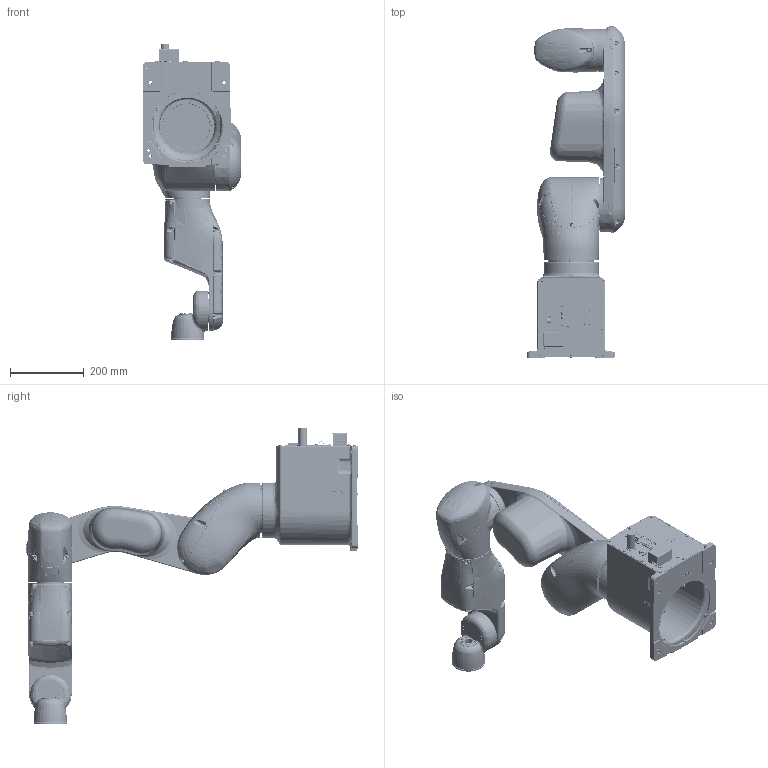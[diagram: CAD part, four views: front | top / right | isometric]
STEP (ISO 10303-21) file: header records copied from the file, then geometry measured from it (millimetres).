
FILE_DESCRIPTION (( 'STEP AP214' ), '1' );
FILE_NAME ('VT6L_901S RevB.STEP', '2021-02-18T21:07:31', ( '' ), ( '' ), 'SwSTEP 2.0', 'SolidWorks 2013', '' );
FILE_SCHEMA (( 'AUTOMOTIVE_DESIGN' ));
Length unit declared in the file: millimetre
Products named in the file (8): VT6L_901S RevB; RLP-B050_STEP1KAI_LIG_SW06; RLP-B010_LIGHT_SW02; RLP-B040_LIGHT_SW05; RLP-B060P_LIGHT_SW0002; RLP-B030_LIGHT_SW04; RLP-B000_LIGHT_SW01; RLP-B020P_LIGHT_SW0004
Assembly tree (7 placements, depth 2):
  VT6L_901S RevB
    RLP-B000_LIGHT_SW01
    RLP-B010_LIGHT_SW02
    RLP-B030_LIGHT_SW04
    RLP-B040_LIGHT_SW05
    RLP-B050_STEP1KAI_LIG_SW06
    RLP-B060P_LIGHT_SW0002
    RLP-B020P_LIGHT_SW0004
Bounding box: 267.3 x 900.97 x 804.7 mm (x, y, z)
Volume: 24328045.5 mm3; surface area: 1526189.3 mm2
Topology: 7 solids, 9 shells, 7745 faces, 19580 edges, 12038 vertices
Faces by surface type: plane 3338, bspline 2489, cylinder 1501, cone 406, torus 11
Entity records: 638897 total; most frequent: CARTESIAN_POINT 399576, ORIENTED_EDGE 38664, DIRECTION 26596, EDGE_CURVE 19332, VERTEX_POINT 12038, AXIS2_PLACEMENT_3D 9125, VECTOR 8346, LINE 8346
